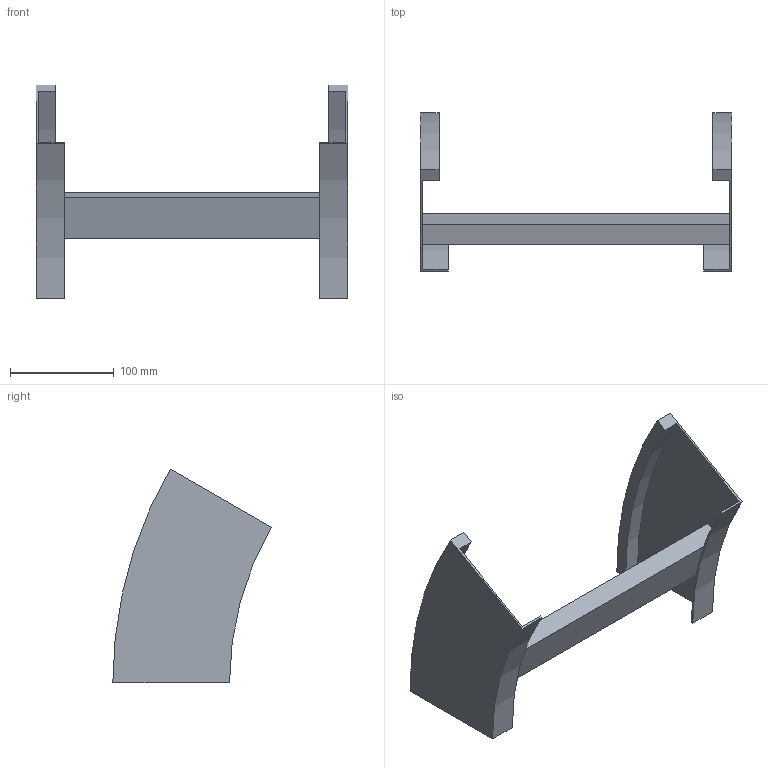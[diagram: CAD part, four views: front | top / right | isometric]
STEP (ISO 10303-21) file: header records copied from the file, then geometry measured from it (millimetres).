
FILE_DESCRIPTION (( 'STEP AP214' ), '1' );
FILE_NAME ('B2_35B3J300.step', '2025-02-21T14:48:33', ( '' ), ( '' ), 'SwSTEP 2.0', 'SolidWorks 2023', '' );
FILE_SCHEMA (( 'AUTOMOTIVE_DESIGN' ));
Length unit declared in the file: millimetre
Products named in the file (3): B2_35B3J300; TRAVERSINO_300; B2_LONGH.DISCESA_30°_H112.5_R300
Assembly tree (3 placements, depth 2):
  B2_35B3J300
    B2_LONGH.DISCESA_30°_H112.5_R300  x2
    TRAVERSINO_300
Bounding box: 300 x 152.69 x 206.25 mm (x, y, z)
Volume: 421191.4 mm3; surface area: 154118 mm2
Topology: 3 solids, 3 shells, 26 faces, 60 edges, 40 vertices
Faces by surface type: plane 18, cylinder 8
Entity records: 544 total; most frequent: DIRECTION 88, CARTESIAN_POINT 82, ORIENTED_EDGE 72, EDGE_CURVE 36, AXIS2_PLACEMENT_3D 30, VECTOR 28, LINE 28, VERTEX_POINT 24
